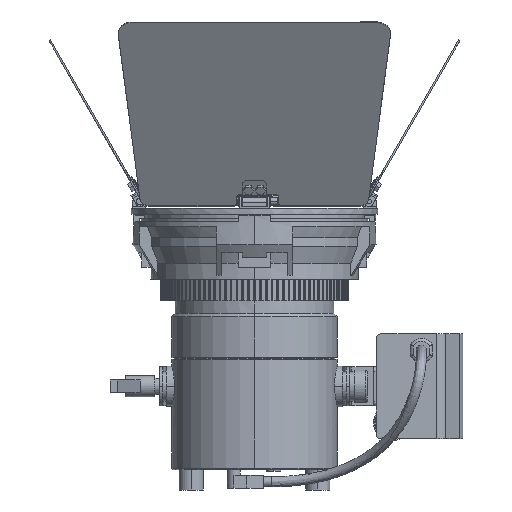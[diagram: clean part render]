
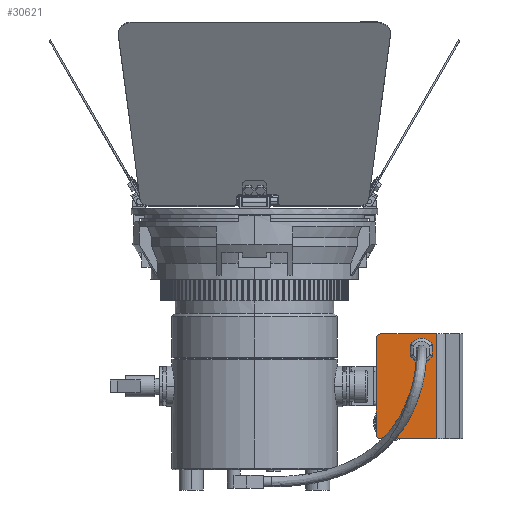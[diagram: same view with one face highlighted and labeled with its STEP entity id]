
A CAD part, front view. The second image highlights one B-rep face of the part: STEP entity #30621.
In plain terms, the highlighted planar face has unit normal (0, -1, 0) as drawn and (1, 0, 0) by its records, which use the part's own axes.
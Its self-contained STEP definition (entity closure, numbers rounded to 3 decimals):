
#196 = DIRECTION ( 'NONE',  ( 0., 1., 0. ) ) ;
#651 = DIRECTION ( 'NONE',  ( 0., -1., 0. ) ) ;
#902 = AXIS2_PLACEMENT_3D ( 'NONE', #41604, #19941, #8717 ) ;
#2467 = CARTESIAN_POINT ( 'NONE',  ( 60.958, -75.031, -19.226 ) ) ;
#2648 = CARTESIAN_POINT ( 'NONE',  ( 60.958, -53.802, -29.4 ) ) ;
#2960 = CARTESIAN_POINT ( 'NONE',  ( 60.958, -90.915, 32.4 ) ) ;
#3449 = ORIENTED_EDGE ( 'NONE', *, *, #66501, .F. ) ;
#3701 = AXIS2_PLACEMENT_3D ( 'NONE', #6905, #23231, #49445 ) ;
#4489 = VECTOR ( 'NONE', #60067, 1000. ) ;
#4958 = DIRECTION ( 'NONE',  ( 0., 0., 1. ) ) ;
#4965 = EDGE_CURVE ( 'NONE', #42166, #55824, #65503, .T. ) ;
#4990 = ORIENTED_EDGE ( 'NONE', *, *, #59926, .T. ) ;
#5438 = PLANE ( 'NONE',  #3701 ) ;
#5872 = EDGE_CURVE ( 'NONE', #40302, #42166, #6872, .T. ) ;
#6872 = CIRCLE ( 'NONE', #26964, 7.5 ) ;
#6900 = DIRECTION ( 'NONE',  ( 1., 0., 0. ) ) ;
#6905 = CARTESIAN_POINT ( 'NONE',  ( 60.958, -90.915, -32.4 ) ) ;
#7845 = CARTESIAN_POINT ( 'NONE',  ( 60.958, -90.915, -32.4 ) ) ;
#8511 = DIRECTION ( 'NONE',  ( 0., 0., 1. ) ) ;
#8717 = DIRECTION ( 'NONE',  ( 0., 1., 0. ) ) ;
#8895 = CIRCLE ( 'NONE', #24257, 3. ) ;
#8994 = AXIS2_PLACEMENT_3D ( 'NONE', #71407, #55514, #44179 ) ;
#9350 = CARTESIAN_POINT ( 'NONE',  ( 60.958, -56.802, -29.4 ) ) ;
#10001 = CARTESIAN_POINT ( 'NONE',  ( 60.958, -90.915, -32.4 ) ) ;
#11708 = CARTESIAN_POINT ( 'NONE',  ( 60.958, -88.416, -25.754 ) ) ;
#11870 = VERTEX_POINT ( 'NONE', #20110 ) ;
#11967 = AXIS2_PLACEMENT_3D ( 'NONE', #26545, #42677, #21247 ) ;
#12844 = VERTEX_POINT ( 'NONE', #11708 ) ;
#13485 = VERTEX_POINT ( 'NONE', #18995 ) ;
#14030 = AXIS2_PLACEMENT_3D ( 'NONE', #61771, #6900, #23692 ) ;
#14859 = LINE ( 'NONE', #38105, #4489 ) ;
#14893 = ORIENTED_EDGE ( 'NONE', *, *, #4965, .F. ) ;
#17664 = EDGE_CURVE ( 'NONE', #12844, #13485, #20514, .T. ) ;
#18995 = CARTESIAN_POINT ( 'NONE',  ( 60.958, -75.147, -25.754 ) ) ;
#19941 = DIRECTION ( 'NONE',  ( 1., 0., 0. ) ) ;
#20110 = CARTESIAN_POINT ( 'NONE',  ( 60.958, -75.031, -19.226 ) ) ;
#20208 = VERTEX_POINT ( 'NONE', #24109 ) ;
#20514 = CIRCLE ( 'NONE', #35801, 7.5 ) ;
#20706 = ORIENTED_EDGE ( 'NONE', *, *, #66622, .F. ) ;
#21247 = DIRECTION ( 'NONE',  ( 0., 1., 0. ) ) ;
#21518 = VERTEX_POINT ( 'NONE', #46742 ) ;
#22453 = CARTESIAN_POINT ( 'NONE',  ( 60.958, -53.802, 29.4 ) ) ;
#23231 = DIRECTION ( 'NONE',  ( -1., 0., 0. ) ) ;
#23692 = DIRECTION ( 'NONE',  ( 0., 1., 0. ) ) ;
#24109 = CARTESIAN_POINT ( 'NONE',  ( 60.958, -75.031, -25.288 ) ) ;
#24257 = AXIS2_PLACEMENT_3D ( 'NONE', #9350, #30954, #59374 ) ;
#26138 = VECTOR ( 'NONE', #4958, 1000. ) ;
#26545 = CARTESIAN_POINT ( 'NONE',  ( 60.958, -87.531, -25.288 ) ) ;
#26858 = LINE ( 'NONE', #2467, #33753 ) ;
#26964 = AXIS2_PLACEMENT_3D ( 'NONE', #60410, #53883, #59467 ) ;
#27384 = CARTESIAN_POINT ( 'NONE',  ( 60.958, -81.781, -22.257 ) ) ;
#27682 = CARTESIAN_POINT ( 'NONE',  ( 60.958, -90.915, 32.4 ) ) ;
#27859 = DIRECTION ( 'NONE',  ( 1., 0., 0. ) ) ;
#28381 = VECTOR ( 'NONE', #54045, 1000. ) ;
#28501 = EDGE_CURVE ( 'NONE', #21518, #12844, #62129, .T. ) ;
#30621 = ADVANCED_FACE ( 'NONE', ( #70471, #35943 ), #5438, .F. ) ;
#30954 = DIRECTION ( 'NONE',  ( 1., 0., 0. ) ) ;
#33249 = VECTOR ( 'NONE', #40956, 1000. ) ;
#33613 = LINE ( 'NONE', #10001, #37869 ) ;
#33753 = VECTOR ( 'NONE', #8511, 1000. ) ;
#33960 = ORIENTED_EDGE ( 'NONE', *, *, #46147, .F. ) ;
#33964 = CARTESIAN_POINT ( 'NONE',  ( 60.958, -88.531, -19.226 ) ) ;
#34087 = DIRECTION ( 'NONE',  ( 1., 0., 0. ) ) ;
#35059 = ORIENTED_EDGE ( 'NONE', *, *, #45176, .F. ) ;
#35801 = AXIS2_PLACEMENT_3D ( 'NONE', #27384, #27859, #196 ) ;
#35909 = VERTEX_POINT ( 'NONE', #27682 ) ;
#35943 = FACE_BOUND ( 'NONE', #60985, .T. ) ;
#37635 = CARTESIAN_POINT ( 'NONE',  ( 60.958, -53.802, -32.4 ) ) ;
#37869 = VECTOR ( 'NONE', #48455, 1000. ) ;
#38036 = CARTESIAN_POINT ( 'NONE',  ( 60.958, -56.802, -32.4 ) ) ;
#38105 = CARTESIAN_POINT ( 'NONE',  ( 60.958, -88.531, -25.288 ) ) ;
#38762 = VERTEX_POINT ( 'NONE', #7845 ) ;
#39807 = EDGE_CURVE ( 'NONE', #69659, #42787, #60639, .T. ) ;
#40302 = VERTEX_POINT ( 'NONE', #52796 ) ;
#40956 = DIRECTION ( 'NONE',  ( 0., -1., 0. ) ) ;
#41604 = CARTESIAN_POINT ( 'NONE',  ( 60.958, -76.031, -19.226 ) ) ;
#41884 = EDGE_CURVE ( 'NONE', #66949, #69659, #8895, .T. ) ;
#42166 = VERTEX_POINT ( 'NONE', #61042 ) ;
#42370 = CARTESIAN_POINT ( 'NONE',  ( 60.958, -56.802, 32.4 ) ) ;
#42677 = DIRECTION ( 'NONE',  ( 1., 0., 0. ) ) ;
#42787 = VERTEX_POINT ( 'NONE', #22453 ) ;
#44179 = DIRECTION ( 'NONE',  ( 0., 1., 0. ) ) ;
#45176 = EDGE_CURVE ( 'NONE', #55824, #21518, #14859, .T. ) ;
#45945 = AXIS2_PLACEMENT_3D ( 'NONE', #66627, #34087, #651 ) ;
#46147 = EDGE_CURVE ( 'NONE', #66949, #38762, #33613, .T. ) ;
#46742 = CARTESIAN_POINT ( 'NONE',  ( 60.958, -88.531, -25.288 ) ) ;
#46970 = ORIENTED_EDGE ( 'NONE', *, *, #5872, .F. ) ;
#47900 = LINE ( 'NONE', #2960, #33249 ) ;
#48250 = ORIENTED_EDGE ( 'NONE', *, *, #41884, .T. ) ;
#48455 = DIRECTION ( 'NONE',  ( 0., -1., 0. ) ) ;
#49445 = DIRECTION ( 'NONE',  ( 0., -1., 0. ) ) ;
#49467 = ORIENTED_EDGE ( 'NONE', *, *, #64813, .F. ) ;
#52796 = CARTESIAN_POINT ( 'NONE',  ( 60.958, -75.147, -18.759 ) ) ;
#53162 = ORIENTED_EDGE ( 'NONE', *, *, #39807, .T. ) ;
#53400 = EDGE_CURVE ( 'NONE', #11870, #40302, #69349, .T. ) ;
#53883 = DIRECTION ( 'NONE',  ( 1., 0., 0. ) ) ;
#54045 = DIRECTION ( 'NONE',  ( 0., 0., 1. ) ) ;
#54522 = ORIENTED_EDGE ( 'NONE', *, *, #28501, .F. ) ;
#54770 = CARTESIAN_POINT ( 'NONE',  ( 60.958, -90.915, -32.4 ) ) ;
#55514 = DIRECTION ( 'NONE',  ( 1., 0., 0. ) ) ;
#55824 = VERTEX_POINT ( 'NONE', #33964 ) ;
#56941 = ORIENTED_EDGE ( 'NONE', *, *, #61431, .T. ) ;
#57036 = CIRCLE ( 'NONE', #45945, 3. ) ;
#59374 = DIRECTION ( 'NONE',  ( 0., -1., 0. ) ) ;
#59467 = DIRECTION ( 'NONE',  ( 0., 1., 0. ) ) ;
#59926 = EDGE_CURVE ( 'NONE', #42787, #64951, #57036, .T. ) ;
#60067 = DIRECTION ( 'NONE',  ( 0., 0., -1. ) ) ;
#60410 = CARTESIAN_POINT ( 'NONE',  ( 60.958, -81.781, -22.257 ) ) ;
#60639 = LINE ( 'NONE', #37635, #26138 ) ;
#60985 = EDGE_LOOP ( 'NONE', ( #54522, #35059, #14893, #46970, #70604, #49467, #20706, #66461 ) ) ;
#61042 = CARTESIAN_POINT ( 'NONE',  ( 60.958, -88.416, -18.759 ) ) ;
#61431 = EDGE_CURVE ( 'NONE', #64951, #35909, #47900, .T. ) ;
#61771 = CARTESIAN_POINT ( 'NONE',  ( 60.958, -87.531, -19.226 ) ) ;
#62129 = CIRCLE ( 'NONE', #11967, 1. ) ;
#64614 = LINE ( 'NONE', #54770, #28381 ) ;
#64635 = EDGE_LOOP ( 'NONE', ( #33960, #48250, #53162, #4990, #56941, #3449 ) ) ;
#64813 = EDGE_CURVE ( 'NONE', #20208, #11870, #26858, .T. ) ;
#64951 = VERTEX_POINT ( 'NONE', #42370 ) ;
#65503 = CIRCLE ( 'NONE', #14030, 1. ) ;
#66461 = ORIENTED_EDGE ( 'NONE', *, *, #17664, .F. ) ;
#66501 = EDGE_CURVE ( 'NONE', #38762, #35909, #64614, .T. ) ;
#66622 = EDGE_CURVE ( 'NONE', #13485, #20208, #68833, .T. ) ;
#66627 = CARTESIAN_POINT ( 'NONE',  ( 60.958, -56.802, 29.4 ) ) ;
#66949 = VERTEX_POINT ( 'NONE', #38036 ) ;
#68833 = CIRCLE ( 'NONE', #8994, 1. ) ;
#69349 = CIRCLE ( 'NONE', #902, 1. ) ;
#69659 = VERTEX_POINT ( 'NONE', #2648 ) ;
#70471 = FACE_OUTER_BOUND ( 'NONE', #64635, .T. ) ;
#70604 = ORIENTED_EDGE ( 'NONE', *, *, #53400, .F. ) ;
#71407 = CARTESIAN_POINT ( 'NONE',  ( 60.958, -76.031, -25.288 ) ) ;
